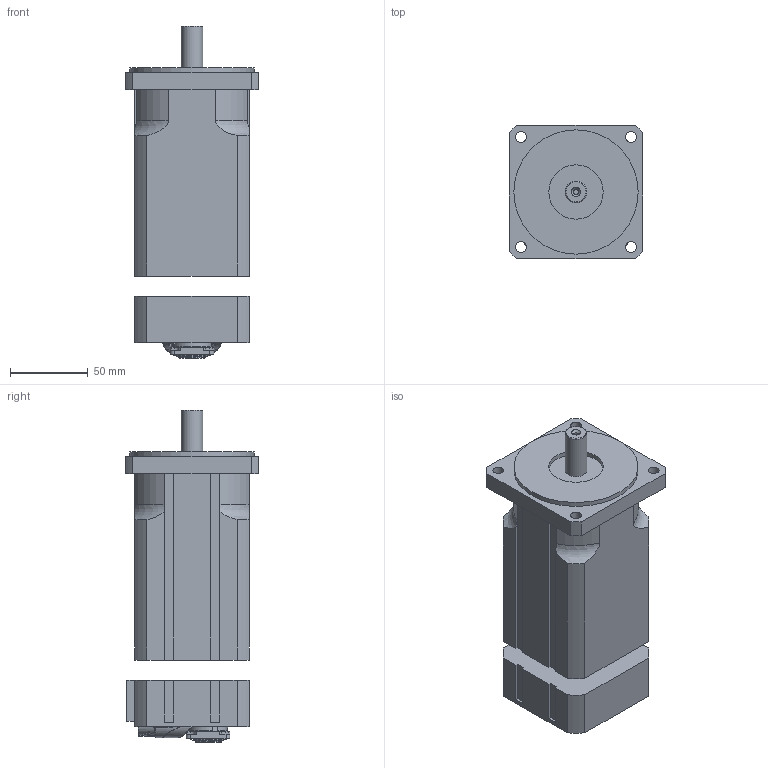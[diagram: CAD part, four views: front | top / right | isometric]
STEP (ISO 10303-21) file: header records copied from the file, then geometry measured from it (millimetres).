
FILE_DESCRIPTION(/* description */ ('Alibre Inc.'),/* implementation_level */ '2;1');
FILE_NAME(/* name */ 'export0',/* time_stamp */ '2011-01-20T08:39:21+01:00',/* author */ (''),/* organization */ (''),/* preprocessor_version */ 'ST-DEVELOPER v12',/* originating_system */ 'Alibre',/* authorisation */ '');
FILE_SCHEMA (('ALIBRE_SCHEMA','CONFIG_CONTROL_DESIGN'));
Length unit declared in the file: millimetre
Products named in the file (4): ID_1
Bounding box: 86 x 86 x 213.77 mm (x, y, z)
Volume: 907750.6 mm3; surface area: 86398.9 mm2
Topology: 3 solids, 4 shells, 1367 faces, 3362 edges, 2044 vertices
Faces by surface type: bspline 508, plane 358, cylinder 339, torus 86, cone 50, sphere 26
Full cylindrical faces by diameter (mm): 1 x21, 1.5 x1, 1.8 x2, 3.2 x4, 4 x1, 7.5 x1, 8 x1, 11.75 x1, 14 x1, 16.2 x1, 16.95 x1, 17.025 x1, 18.8 x1, 19.8 x1, 20 x1, 22.765 x1, 35 x1, 80 x1
Entity records: 146217 total; most frequent: CARTESIAN_POINT 83829, ORIENTED_EDGE 12664, DIRECTION 9748, EDGE_CURVE 6332, AXIS2_PLACEMENT_3D 4093, VERTEX_POINT 4024, EDGE_LOOP 3238, FACE_BOUND 3238
